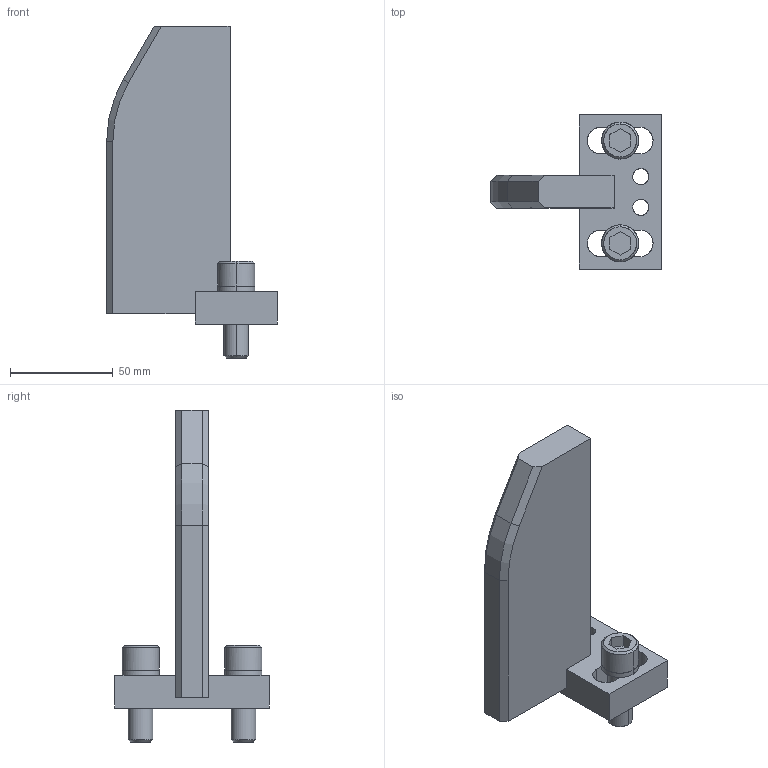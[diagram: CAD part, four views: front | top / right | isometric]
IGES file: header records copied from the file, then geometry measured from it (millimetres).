
Global section: file name: E:\UnigraphicsGraphicData\MISUMI_PRESS-PARTS\IGES\3d_ngwa-145-40-s60-m12_01576_r00.igs; native system: NX V5.0; preprocessor: UGS NX IGES V5.0; author: MISUMI; date: 20110105.162107; units: millimetre
Bounding box: 83 x 75 x 161.5 mm (x, y, z)
Surface area: 39807.9 mm2 (no closed solid volume)
Topology: 0 solids, 0 shells, 104 faces, 665 edges, 665 vertices
Faces by surface type: bspline 104
